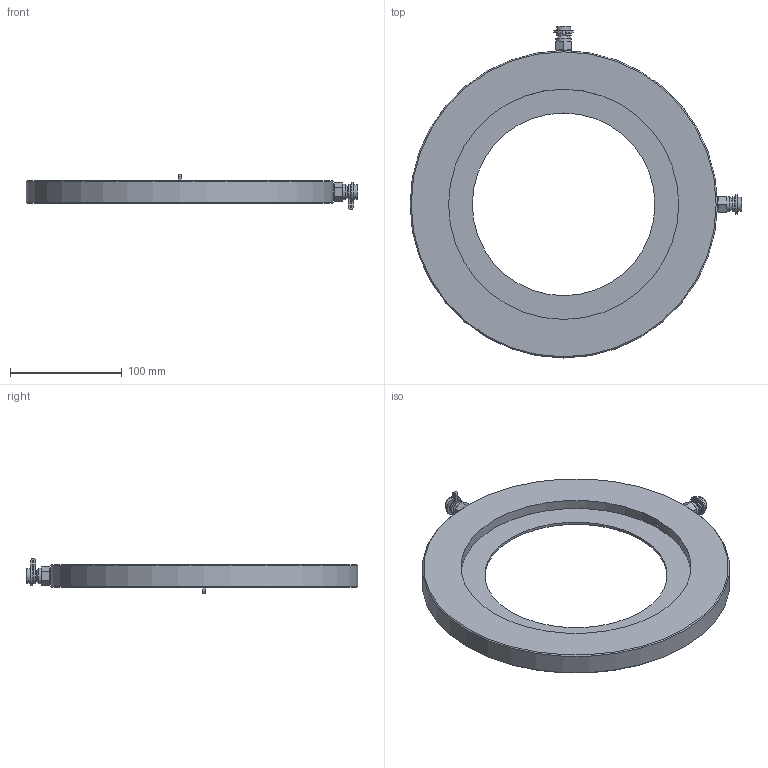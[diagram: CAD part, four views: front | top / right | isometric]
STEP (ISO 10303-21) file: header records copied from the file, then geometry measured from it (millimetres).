
FILE_DESCRIPTION((''),'2;1');
FILE_NAME('P:\Fastrack\53972_CRANE 3D\Workspace\HATTERSLEY\Fig-2000_DN200\Fig-2000_DN200.stp','2011-03-08T10:08:01',('btaylor'),(''),'Autodesk Inventor 2008','Autodesk Inventor 2008','');
FILE_SCHEMA(('AUTOMOTIVE_DESIGN { 1 0 10303 214 1 1 1 1 }'));
Length unit declared in the file: millimetre
Products named in the file (1): Fig-2000_DN200
Bounding box: 297.1 x 297.1 x 31.45 mm (x, y, z)
Volume: 555182 mm3; surface area: 109343 mm2
Topology: 1 solids, 1 shells, 109 faces, 255 edges, 165 vertices
Faces by surface type: plane 72, cylinder 27, cone 8, bspline 2
Full cylindrical faces by diameter (mm): 3.2 x2, 7.4 x2, 11 x2, 12.7 x2, 13.7 x2, 163.5 x1, 206 x2, 275 x1
Entity records: 3996 total; most frequent: CARTESIAN_POINT 1485, DIRECTION 478, ORIENTED_EDGE 440, EDGE_CURVE 220, AXIS2_PLACEMENT_3D 184, EDGE_LOOP 156, VERTEX_POINT 154, VECTOR 110
